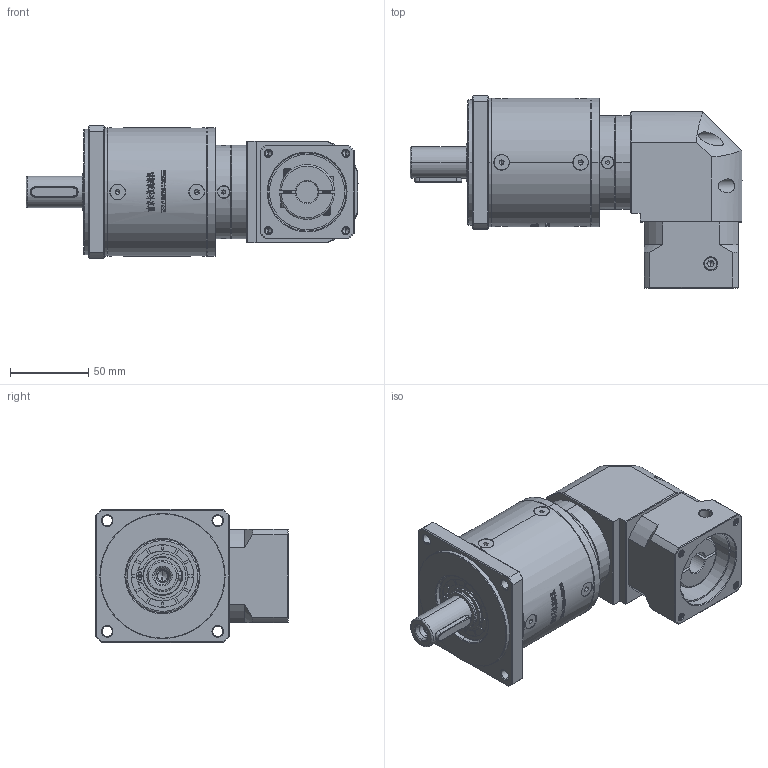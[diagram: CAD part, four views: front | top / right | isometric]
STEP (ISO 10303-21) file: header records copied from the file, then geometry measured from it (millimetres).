
FILE_DESCRIPTION (( 'STEP AP214' ), '1' );
FILE_NAME ('ZFR80-D20-L3-14-50-70-M5.step', '2022-05-08T14:51:34', ( '' ), ( 'Microsoft' ), 'SwSTEP 2.0', 'SolidWorks 2016', '' );
FILE_SCHEMA (( 'AUTOMOTIVE_DESIGN' ));
Length unit declared in the file: millimetre
Products named in the file (1): ZFR80-D20-L3-14-50-70-M5
Bounding box: 212 x 122.7 x 85 mm (x, y, z)
Volume: 887535.4 mm3; surface area: 107770.1 mm2
Topology: 17 solids, 18 shells, 3078 faces, 8189 edges, 5268 vertices
Faces by surface type: plane 1601, bspline 620, cylinder 468, cone 381, torus 8
Entity records: 165920 total; most frequent: CARTESIAN_POINT 60923, ORIENTED_EDGE 16286, DIRECTION 12362, EDGE_CURVE 8143, VERTEX_POINT 5268, LINE 4988, VECTOR 4988, AXIS2_PLACEMENT_3D 3687
